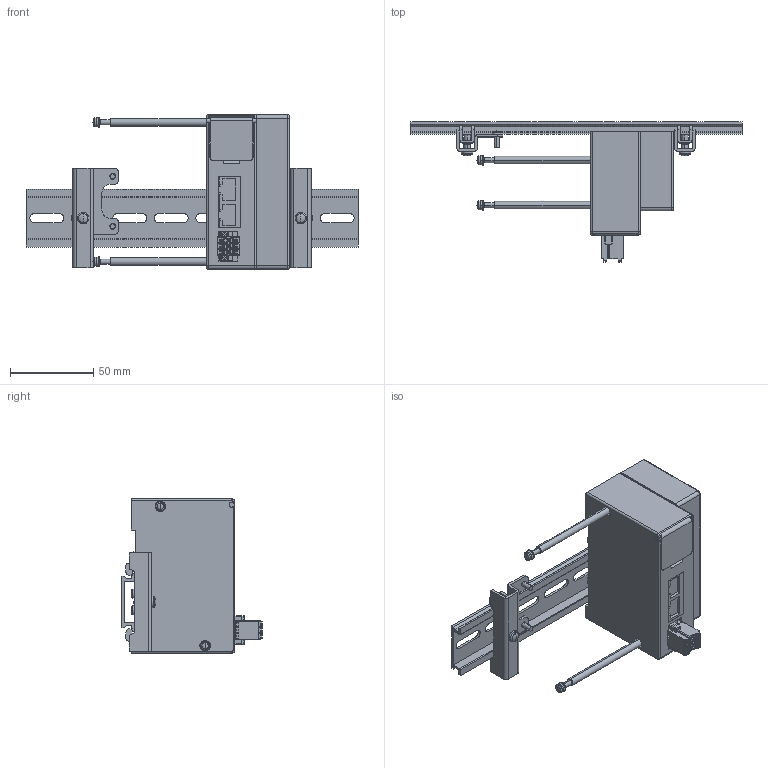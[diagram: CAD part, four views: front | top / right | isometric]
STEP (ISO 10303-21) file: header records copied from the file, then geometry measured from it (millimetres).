
FILE_DESCRIPTION( (''), '2;1');
FILE_NAME ('YS8EM3-3-DR.stp','2022-12-01T14:42:43',(''),(''),'spGate 12.6.6','','');
FILE_SCHEMA (('AUTOMOTIVE_DESIGN'));
Length unit declared in the file: millimetre
Products named in the file (4): Assembly; YS8EM3-3-DR-prt0; YS8EM3-3-DR-prt1; YS8EM3-3-DR-prt2
Assembly tree (4 placements, depth 2):
  Assembly
    YS8EM3-3-DR-prt0
    YS8EM3-3-DR-prt1
    YS8EM3-3-DR-prt2  x2
Bounding box: 200 x 84.4 x 93 mm (x, y, z)
Volume: 279977.5 mm3; surface area: 65878.9 mm2
Topology: 4 solids, 4 shells, 1023 faces, 2691 edges, 1729 vertices
Faces by surface type: plane 597, cylinder 328, bspline 82, sphere 16
Entity records: 46896 total; most frequent: CARTESIAN_POINT 6329, ORIENTED_EDGE 4660, DIRECTION 4418, COLOUR_RGB 3225, PRESENTATION_STYLE_ASSIGNMENT 3225, STYLED_ITEM 3225, EDGE_CURVE 2330, DRAUGHTING_PRE_DEFINED_CURVE_FONT 2330
